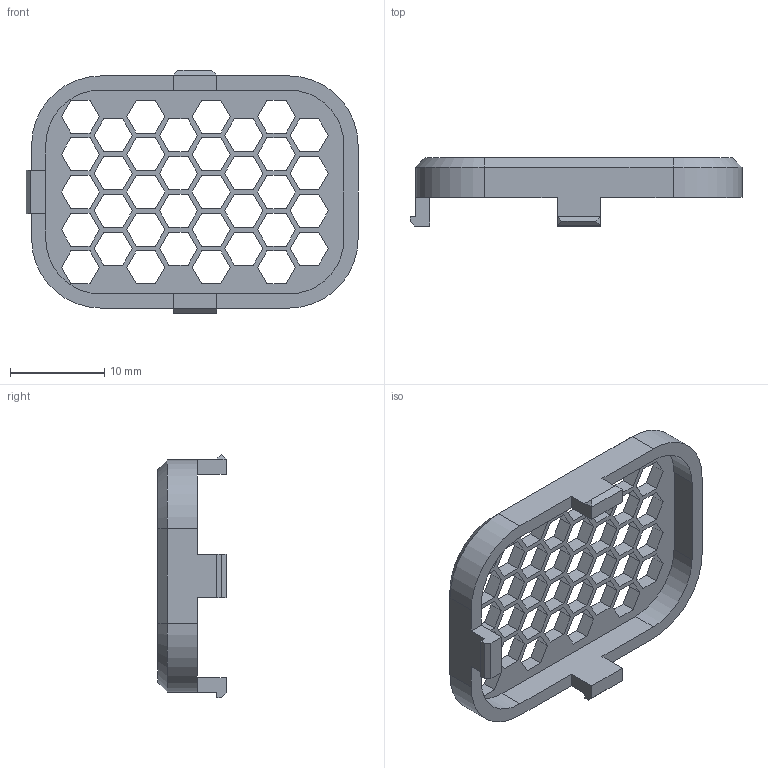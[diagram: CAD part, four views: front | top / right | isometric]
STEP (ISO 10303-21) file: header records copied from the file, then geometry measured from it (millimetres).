
FILE_DESCRIPTION(/* description */ ('STEP AP242','CAx-IF Rec.Pracs.---Representation and Presentation of Product Manufacturing Information (PMI)---4.0---2014-10-13','CAx-IF Rec.Pracs.---3D Tessellated Geometry---0.4---2014-09-14','2;1'),/* implementation_level */ '2;1');
FILE_NAME(/* name */ '687e69c8f344454910d477c6',/* time_stamp */ '2025-07-21T16:24:40Z',/* author */ (''),/* organization */ (''),/* preprocessor_version */ 'ST-DEVELOPER v20',/* originating_system */ 'ONSHAPE BY PTC INC, 1.201',/* authorisation */ ' ');
FILE_SCHEMA (('AP242_MANAGED_MODEL_BASED_3D_ENGINEERING_MIM_LF { 1 0 10303 442 1 1 4 }'));
Length unit declared in the file: metre
Products named in the file (1): Speaker Cap
Bounding box: 35.2 x 7.24 x 25.8 mm (x, y, z)
Volume: 1060.6 mm3; surface area: 2266.3 mm2
Topology: 1 solids, 1 shells, 265 faces, 777 edges, 514 vertices
Faces by surface type: plane 253, cylinder 8, cone 4
Entity records: 8781 total; most frequent: CARTESIAN_POINT 1557, ORIENTED_EDGE 1554, DIRECTION 1329, EDGE_CURVE 777, LINE 757, VECTOR 757, VERTEX_POINT 514, EDGE_LOOP 337
